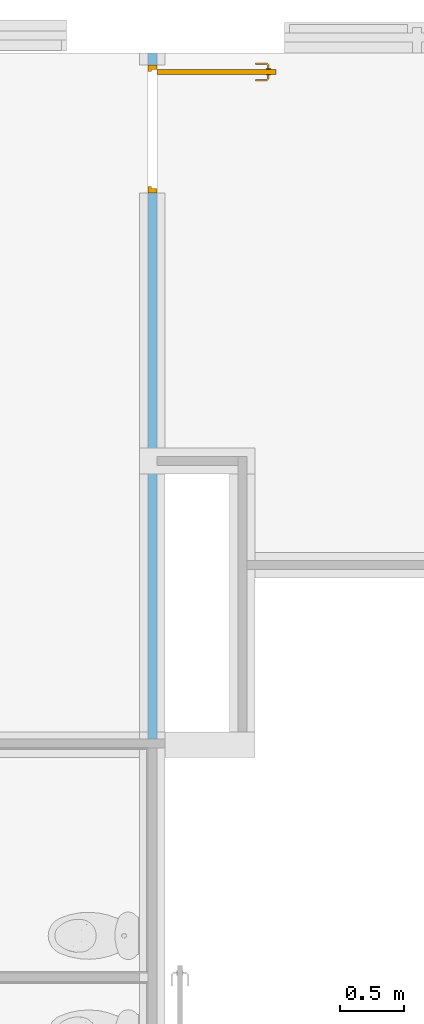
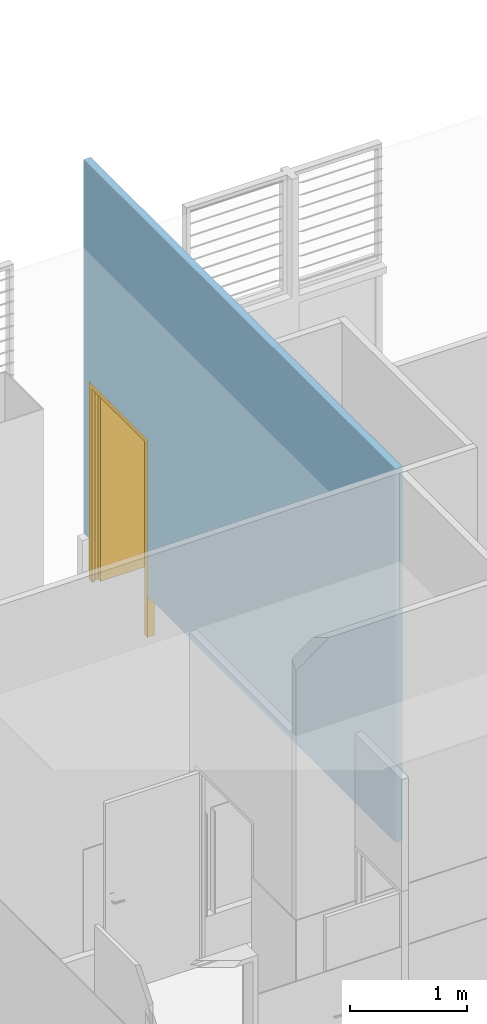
# One storey, part 10 of 18: 1 door, 1 opening, plus 1 element that does not belong to this part.
"""IFC2X3 building model written with IfcOpenShell, lengths in metres."""

from ifc_helpers import new_model, entity, si_unit, converted_unit, derived_unit, direction, frame, frame_2d, origin, place, context, subcontext, project, spatial, rectangle, extrude, faceted_brep, source, transform, mapped, material, layer, layer_set, layer_usage, type_object, type_shapes, element, fill, save


model = new_model("IFC2X3")

# Units and contexts
model_context = context("Model", 3, precision=1e-05, world=origin(), true_north=direction((6.12303176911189e-17, 1.0)))
body_context = subcontext(model_context, "Body", "Model", "MODEL_VIEW")
ifc_project = project(units=[si_unit("LENGTHUNIT", "METRE"), si_unit("AREAUNIT", "SQUARE_METRE"), si_unit("VOLUMEUNIT", "CUBIC_METRE"), converted_unit("PLANEANGLEUNIT", "DEGREE", entity("IfcRatioMeasure", 0.0174532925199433), si_unit("PLANEANGLEUNIT", "RADIAN"), dimensions=[0, 0, 0, 0, 0, 0, 0]), si_unit("MASSUNIT", "GRAM", prefix="KILO"), derived_unit("MASSDENSITYUNIT", [(si_unit("MASSUNIT", "GRAM", prefix="KILO"), 1), (si_unit("LENGTHUNIT", "METRE"), -3)]), si_unit("TIMEUNIT", "SECOND"), si_unit("FREQUENCYUNIT", "HERTZ"), si_unit("THERMODYNAMICTEMPERATUREUNIT", "DEGREE_CELSIUS"), derived_unit("THERMALTRANSMITTANCEUNIT", [(si_unit("MASSUNIT", "GRAM", prefix="KILO"), 1), (si_unit("THERMODYNAMICTEMPERATUREUNIT", "KELVIN"), -1), (si_unit("TIMEUNIT", "SECOND"), -3)]), derived_unit("VOLUMETRICFLOWRATEUNIT", [(si_unit("LENGTHUNIT", "METRE"), 3), (si_unit("TIMEUNIT", "SECOND"), -1)]), si_unit("ELECTRICCURRENTUNIT", "AMPERE"), si_unit("ELECTRICVOLTAGEUNIT", "VOLT"), si_unit("POWERUNIT", "WATT"), si_unit("FORCEUNIT", "NEWTON", prefix="KILO"), si_unit("ILLUMINANCEUNIT", "LUX"), si_unit("LUMINOUSFLUXUNIT", "LUMEN"), si_unit("LUMINOUSINTENSITYUNIT", "CANDELA"), derived_unit("USERDEFINED", [(si_unit("MASSUNIT", "GRAM", prefix="KILO"), -1), (si_unit("LENGTHUNIT", "METRE"), -2), (si_unit("TIMEUNIT", "SECOND"), 3), (si_unit("LUMINOUSFLUXUNIT", "LUMEN"), 1)]), derived_unit("LINEARVELOCITYUNIT", [(si_unit("LENGTHUNIT", "METRE"), 1), (si_unit("TIMEUNIT", "SECOND"), -1)]), si_unit("PRESSUREUNIT", "PASCAL"), derived_unit("USERDEFINED", [(si_unit("LENGTHUNIT", "METRE"), -2), (si_unit("MASSUNIT", "GRAM", prefix="KILO"), 1), (si_unit("TIMEUNIT", "SECOND"), -2)])], contexts=[model_context])

# Site, building, storey
site_placement = place(None, origin())
site = spatial("IfcSite", under=ifc_project, at=site_placement, Name="Surface", CompositionType="ELEMENT")
building_placement = place(site_placement, origin())
building = spatial("IfcBuilding", under=site, at=building_placement, Name="ExPREF", CompositionType="ELEMENT")
storey_placement = place(building_placement, frame((0.0, 0.0, -4.62)))
storey = spatial("IfcBuildingStorey", under=building, at=storey_placement, Name="R-1", CompositionType="ELEMENT", Elevation=-4.62)

# Wall, opening, door
ifc_material_1 = material(Name="AA-fermacell peint")
ifc_layer_1 = layer(ifc_material_1, 0.0125)
ifc_material_2 = material(Name="AA-isolant plancher")
ifc_layer_2 = layer(ifc_material_2, 0.045)
ifc_layer_3 = layer(ifc_material_1, 0.0125)
ifc_layer_set = layer_set([ifc_layer_1, ifc_layer_2, ifc_layer_3], Name="Mur de base:Générique - Int. 70 mm")
ifc_layer_usage = layer_usage(ifc_layer_set, "AXIS2", "NEGATIVE", 0.035)
wall_type = type_object("IfcWallType", Name="Mur de base:Générique - Int. 70 mm", PredefinedType="STANDARD", material=ifc_layer_set)
wall_placement = place(storey_placement, frame((49.489743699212, -185.214488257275, 0.43), z_axis=(0.0, 0.0, 1.0), x_axis=(0.0, -1.0, 0.0)))
wall = element("IfcWallStandardCase", 1, at=wall_placement, inside=storey, type_object=wall_type, material=ifc_layer_usage, Name="Mur de base:Générique - Int. 70 mm", ObjectType="Mur de base:Générique - Int. 70 mm", context=body_context, shape_type="SweptSolid", body=[
    extrude(rectangle(XDim=5.34858167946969, YDim=0.0700000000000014, at=frame_2d((2.67429083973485, 0.0), x_axis=(-1.0, 0.0))), origin(), (0.0, 0.0, 1.0), 3.9149999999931),
])
opening_placement = place(wall_placement, frame((0.0919999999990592, -0.0350000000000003, -0.430000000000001)))
opening = element("IfcOpeningElement", 2, at=opening_placement, cuts=wall, Name="Porte intérieur bois:PP (0.93m x 2.04m):1", ObjectType="Opening", context=body_context, shape_type="SweptSolid", body=[
    extrude(rectangle(XDim=2.075, YDim=1.0, at=frame_2d((1.0375, 0.5), x_axis=(1.0, 0.0))), frame((0.0, 0.0, 0.0), z_axis=(0.0, 1.0, 0.0), x_axis=(0.0, 0.0, 1.0)), (0.0, 0.0, 1.0), 0.07),
])
ifc_material_3 = material(Name="AA-Blanc satiné")
door_style = type_object("IfcDoorStyle", Name="PP (0.93m x 2.04m)", ConstructionType="NOTDEFINED", OperationType="SINGLE_SWING_LEFT", ParameterTakesPrecedence=False, Sizeable=False, material=ifc_material_3)
shared_shape = source(origin(), body_context, "Body", "Brep", [
    faceted_brep([(0.919999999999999, -0.872025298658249, 1.00778044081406), (0.919999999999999, -0.876000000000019, 1.007), (0.919999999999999, -0.876000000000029, 0.992999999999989), (0.919999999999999, -0.872025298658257, 0.99221955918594), (0.919999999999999, -0.867974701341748, 0.992219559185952), (0.919999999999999, -0.863999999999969, 0.993000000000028), (0.919999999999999, -0.86399999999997, 1.007), (0.919999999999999, -0.867974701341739, 1.00778044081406), (0.897514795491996, -0.863999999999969, 0.993000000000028), (0.897514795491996, -0.863999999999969, 1.007), (0.895868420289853, -0.867974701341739, 1.00778044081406), (0.882054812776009, -0.854161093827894, 1.00778044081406), (0.8780042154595, -0.855838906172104, 1.00778044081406), (0.894190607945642, -0.872025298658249, 1.00778044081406), (0.892544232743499, -0.876000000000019, 1.007), (0.892544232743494, -0.876000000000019, 0.992999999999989), (0.894190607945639, -0.872025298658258, 0.99221955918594), (0.87800421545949, -0.855838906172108, 0.99221955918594), (0.882054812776, -0.854161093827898, 0.992219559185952), (0.895868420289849, -0.867974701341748, 0.992219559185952), (0.886029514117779, -0.852514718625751, 0.993000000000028), (0.886029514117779, -0.852514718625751, 1.007), (0.87402951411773, -0.857485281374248, 1.007), (0.874029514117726, -0.857485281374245, 0.992999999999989), (0.886029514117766, -0.769954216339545, 0.993000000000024), (0.882054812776, -0.769954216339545, 0.992219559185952), (0.87800421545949, -0.769954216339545, 0.99221955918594), (0.874029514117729, -0.769954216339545, 0.992999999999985), (0.87402951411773, -0.769954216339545, 1.007), (0.878004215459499, -0.769954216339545, 1.00778044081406), (0.882054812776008, -0.769954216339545, 1.00778044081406), (0.886029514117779, -0.769954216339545, 1.007), (0.886029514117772, -0.811234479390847, 0.993000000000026), (0.886029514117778, -0.811234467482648, 1.007), (0.880029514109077, -0.812057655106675, 1.0078786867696), (0.87402951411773, -0.81755479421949, 1.007), (0.874029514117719, -0.8175547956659, 0.992999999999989), (0.880029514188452, -0.812057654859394, 0.992121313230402)], [[[0, 1, 2, 3, 4, 5, 6, 7]], [[6, 5, 8, 9]], [[9, 10, 7, 6]], [[10, 11, 12, 13, 0, 7]], [[13, 14, 1, 0]], [[2, 1, 14, 15]], [[15, 16, 3, 2]], [[16, 17, 18, 19, 4, 3]], [[19, 8, 5, 4]], [[9, 8, 20, 21]], [[21, 11, 10, 9]], [[12, 22, 14, 13]], [[15, 14, 22, 23]], [[23, 17, 16, 15]], [[18, 20, 8, 19]], [[24, 25, 26, 27, 28, 29, 30, 31]], [[21, 20, 32, 24, 31, 33]], [[33, 30, 34]], [[35, 34, 29]], [[21, 33, 11]], [[33, 31, 30]], [[28, 35, 29]], [[22, 12, 35]], [[35, 12, 34]], [[12, 11, 34]], [[11, 33, 34]], [[29, 34, 30]], [[22, 35, 28, 27, 36, 23]], [[36, 26, 37]], [[27, 26, 36]], [[17, 23, 36]], [[37, 32, 18]], [[20, 18, 32]], [[32, 25, 24]], [[26, 25, 37]], [[25, 32, 37]], [[17, 36, 37]], [[17, 37, 18]]]),
    faceted_brep([(0.969999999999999, -0.872025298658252, 1.00778044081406), (0.969999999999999, -0.867974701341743, 1.00778044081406), (0.969999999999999, -0.863999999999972, 1.00699999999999), (0.969999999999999, -0.863999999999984, 0.993000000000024), (0.969999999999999, -0.867974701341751, 0.992219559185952), (0.969999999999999, -0.87202529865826, 0.99221955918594), (0.969999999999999, -0.876000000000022, 0.992999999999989), (0.969999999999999, -0.876000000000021, 1.007), (0.997650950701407, -0.876000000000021, 1.007), (0.996004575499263, -0.872025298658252, 1.00778044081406), (1.01205345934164, -0.855976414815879, 1.00778044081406), (1.00800286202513, -0.854298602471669, 1.00778044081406), (0.994326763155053, -0.867974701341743, 1.00778044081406), (0.992680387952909, -0.863999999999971, 1.007), (0.992680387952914, -0.863999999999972, 0.993000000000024), (0.994326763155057, -0.867974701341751, 0.992219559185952), (1.00800286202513, -0.854298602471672, 0.992219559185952), (1.01205345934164, -0.855976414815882, 0.99221955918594), (0.996004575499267, -0.87202529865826, 0.99221955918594), (0.997650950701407, -0.876000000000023, 0.992999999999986), (1.0160281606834, -0.857622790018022, 1.007), (1.00402816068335, -0.852652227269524, 1.007), (1.00402816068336, -0.852652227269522, 0.993000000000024), (1.01602816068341, -0.857622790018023, 0.992999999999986), (1.01602816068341, -0.769981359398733, 0.992999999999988), (1.01205345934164, -0.769981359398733, 0.99221955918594), (1.00800286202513, -0.769981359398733, 0.992219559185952), (1.00402816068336, -0.769981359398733, 0.993000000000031), (1.00402816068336, -0.769981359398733, 1.007), (1.00800286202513, -0.769981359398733, 1.00778044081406), (1.01205345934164, -0.769981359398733, 1.00778044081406), (1.01602816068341, -0.769981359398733, 1.00699999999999), (1.01602816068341, -0.817692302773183, 1.007), (1.01002816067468, -0.812139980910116, 1.0078786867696), (1.00402816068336, -0.811316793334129, 1.007), (1.00402816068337, -0.811316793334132, 0.993000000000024), (1.01002816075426, -0.812139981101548, 0.992121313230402), (1.01602816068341, -0.817692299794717, 0.992999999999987)], [[[0, 1, 2, 3, 4, 5, 6, 7]], [[8, 9, 0, 7]], [[9, 10, 11, 12, 1, 0]], [[12, 13, 2, 1]], [[3, 2, 13, 14]], [[14, 15, 4, 3]], [[15, 16, 17, 18, 5, 4]], [[18, 19, 6, 5]], [[7, 6, 19, 8]], [[20, 10, 9, 8]], [[11, 21, 13, 12]], [[14, 13, 21, 22]], [[22, 16, 15, 14]], [[17, 23, 19, 18]], [[8, 19, 23, 20]], [[24, 25, 26, 27, 28, 29, 30, 31]], [[32, 30, 33]], [[31, 30, 32]], [[10, 20, 32]], [[33, 34, 11]], [[21, 11, 34]], [[34, 29, 28]], [[30, 29, 33]], [[29, 34, 33]], [[10, 32, 33]], [[10, 33, 11]], [[22, 21, 34, 28, 27, 35]], [[35, 26, 36]], [[37, 36, 25]], [[22, 35, 16]], [[35, 27, 26]], [[24, 37, 25]], [[23, 17, 37]], [[37, 17, 36]], [[17, 16, 36]], [[16, 35, 36]], [[25, 36, 26]], [[20, 23, 37, 24, 31, 32]]]),
    faceted_brep([(0.924999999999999, -0.859647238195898, 0.866003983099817), (0.924999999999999, -0.849999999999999, 0.870000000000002), (0.924999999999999, -0.850000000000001, 1.08), (0.924999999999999, -0.8596472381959, 1.08399601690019), (0.924999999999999, -0.870000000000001, 1.08535898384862), (0.924999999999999, -0.880352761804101, 1.08399601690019), (0.924999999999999, -0.89, 1.08), (0.924999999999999, -0.889999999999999, 0.870000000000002), (0.924999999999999, -0.8803527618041, 0.866003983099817), (0.924999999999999, -0.869999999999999, 0.86464101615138), (0.919999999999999, -0.8596472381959, 1.08399601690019), (0.92, -0.850000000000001, 1.08), (0.92, -0.849999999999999, 0.870000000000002), (0.919999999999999, -0.859647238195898, 0.866003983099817), (0.919999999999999, -0.869999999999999, 0.86464101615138), (0.919999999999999, -0.8803527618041, 0.866003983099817), (0.919999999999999, -0.89, 0.870000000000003), (0.919999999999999, -0.89, 1.08), (0.919999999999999, -0.880352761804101, 1.08399601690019), (0.919999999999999, -0.870000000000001, 1.08535898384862)], [[[0, 1, 2, 3, 4, 5, 6, 7, 8, 9]], [[10, 11, 12, 13, 14, 15, 16, 17, 18, 19]], [[11, 10, 3, 2]], [[3, 10, 19, 4]], [[19, 18, 5, 4]], [[18, 17, 6, 5]], [[7, 6, 17, 16]], [[16, 15, 8, 7]], [[8, 15, 14, 9]], [[14, 13, 0, 9]], [[13, 12, 1, 0]], [[2, 1, 12, 11]]]),
    faceted_brep([(0.969999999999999, -0.859647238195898, 0.866003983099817), (0.969999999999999, -0.849999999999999, 0.870000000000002), (0.969999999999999, -0.850000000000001, 1.08), (0.969999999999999, -0.8596472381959, 1.08399601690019), (0.969999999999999, -0.87, 1.08535898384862), (0.969999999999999, -0.880352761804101, 1.08399601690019), (0.969999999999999, -0.89, 1.08), (0.969999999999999, -0.889999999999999, 0.870000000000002), (0.969999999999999, -0.8803527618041, 0.866003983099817), (0.969999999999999, -0.869999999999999, 0.86464101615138), (0.964999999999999, -0.8596472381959, 1.08399601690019), (0.965, -0.850000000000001, 1.08), (0.965, -0.849999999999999, 0.870000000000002), (0.964999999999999, -0.859647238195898, 0.866003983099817), (0.964999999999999, -0.869999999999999, 0.86464101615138), (0.964999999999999, -0.8803527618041, 0.866003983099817), (0.964999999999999, -0.89, 0.870000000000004), (0.964999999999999, -0.89, 1.08), (0.964999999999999, -0.880352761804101, 1.08399601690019), (0.964999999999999, -0.87, 1.08535898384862)], [[[0, 1, 2, 3, 4, 5, 6, 7, 8, 9]], [[10, 11, 12, 13, 14, 15, 16, 17, 18, 19]], [[16, 15, 8, 7]], [[8, 15, 14, 9]], [[14, 13, 0, 9]], [[13, 12, 1, 0]], [[2, 1, 12, 11]], [[11, 10, 3, 2]], [[3, 10, 19, 4]], [[19, 18, 5, 4]], [[18, 17, 6, 5]], [[7, 6, 17, 16]]]),
    faceted_brep([(0.924999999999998, -0.93, 2.04), (0.924999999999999, 0.0, 2.04), (0.924999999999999, 0.0, 0.0), (0.924999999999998, -0.93, 0.0), (0.964999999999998, -0.93, 2.04), (0.964999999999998, -0.93, 0.0), (0.965, 0.0, 0.0), (0.965, 0.0, 2.04)], [[[0, 1, 2, 3]], [[4, 5, 6, 7]], [[1, 0, 4, 7]], [[2, 1, 7, 6]], [[3, 2, 6, 5]], [[0, 3, 5, 4]]]),
    faceted_brep([(0.0, 0.0, 0.0), (0.0, 0.0699999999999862, 0.0), (0.0500000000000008, 0.0699999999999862, 0.0), (0.0500000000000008, 0.04, 0.0), (0.0349999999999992, 0.04, 0.0), (0.0349999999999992, 0.0, 0.0), (0.0, 0.0, 2.07500000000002), (0.0, 0.0699999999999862, 2.07500000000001), (1.0, 0.0699999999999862, 2.07500000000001), (1.0, 0.0699999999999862, 0.0), (0.949999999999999, 0.0699999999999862, 0.0), (0.949999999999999, 0.0699999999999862, 2.025), (0.050000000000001, 0.0699999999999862, 2.025), (0.0500000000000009, 0.04, 2.025), (0.949999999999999, 0.04, 2.025), (0.949999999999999, 0.04, 0.0), (0.965, 0.04, 0.0), (0.965, 0.04, 2.04), (0.0349999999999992, 0.04, 2.04), (0.0349999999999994, 0.0, 2.04), (0.965000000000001, 0.0, 2.04), (0.965, 0.0, 0.0), (1.0, 0.0, 0.0), (1.0, 0.0, 2.07500000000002)], [[[0, 1, 2, 3, 4, 5]], [[1, 0, 6, 7]], [[2, 1, 7, 8, 9, 10, 11, 12]], [[3, 2, 12, 13]], [[4, 3, 13, 14, 15, 16, 17, 18]], [[5, 4, 18, 19]], [[0, 5, 19, 20, 21, 22, 23, 6]], [[8, 23, 22, 9]], [[22, 21, 16, 15, 10, 9]], [[14, 11, 10, 15]], [[20, 17, 16, 21]], [[7, 6, 23, 8]], [[13, 12, 11, 14]], [[19, 18, 17, 20]]]),
])
type_shapes(door_style, [shared_shape])
door_placement = place(opening_placement, frame((1.0, 0.0700000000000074, 0.0), z_axis=(0.0, 0.0, 1.0), x_axis=(-1.0, 0.0, 0.0)))
door = element("IfcDoor", 3, at=door_placement, inside=storey, type_object=door_style, material=ifc_material_3, Name="Porte intérieur bois:PP (0.93m x 2.04m)", ObjectType="PP (0.93m x 2.04m)", OverallHeight=2.075, OverallWidth=1.00000000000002, context=body_context, shape_type="MappedRepresentation", body=[
    mapped(shared_shape, transform((0.0, 0.0, 0.0), scale=1.0)),
])
fill(opening, door)

save(model, "model.ifc")
